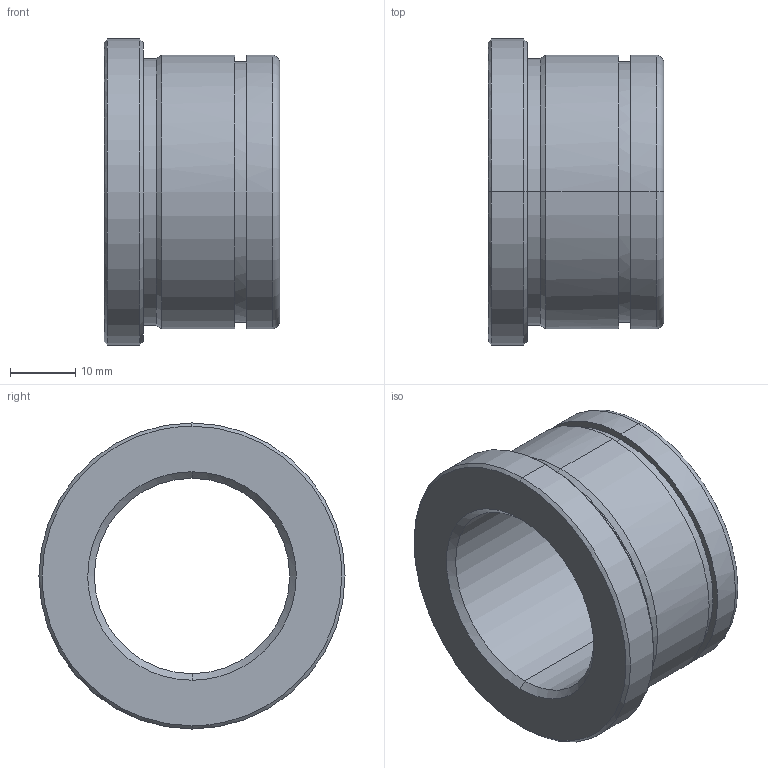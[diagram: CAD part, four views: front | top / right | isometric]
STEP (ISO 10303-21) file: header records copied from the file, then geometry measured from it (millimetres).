
FILE_DESCRIPTION(('CATIA V5 STEP Exchange'),'2;1');
FILE_NAME('C:\Users\Utente\Desktop\IO LAVORO\3D X SITO CF\X SITO\PLASTICA\553\553-30X27.stp','2021-05-26T18:28:11+00:00',('none'),('none'),'CATIA Version 5 Release 20 GA (IN-10)','CATIA V5 STEP AP203','none');
FILE_SCHEMA(('CONFIG_CONTROL_DESIGN'));
Length unit declared in the file: millimetre
Products named in the file (1): 553-30X27
Bounding box: 27 x 47 x 47 mm (x, y, z)
Volume: 19765.6 mm3; surface area: 8270.7 mm2
Topology: 1 solids, 1 shells, 29 faces, 92 edges, 68 vertices
Faces by surface type: cylinder 12, cone 8, plane 5, torus 4
Entity records: 1228 total; most frequent: CARTESIAN_POINT 378, ORIENTED_EDGE 184, DIRECTION 134, EDGE_CURVE 92, AXIS2_PLACEMENT_3D 86, VERTEX_POINT 68, CIRCLE 56, EDGE_LOOP 34
